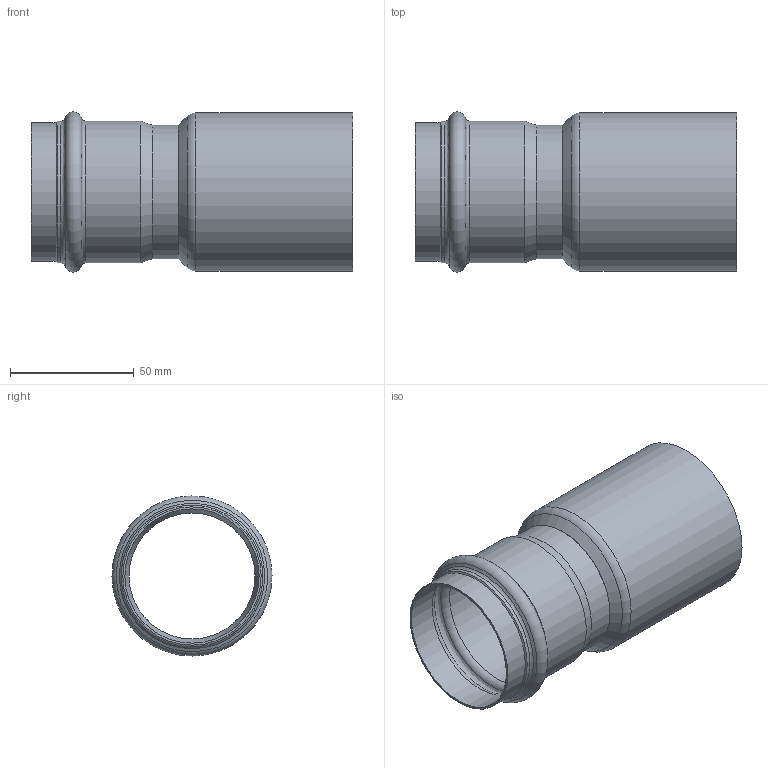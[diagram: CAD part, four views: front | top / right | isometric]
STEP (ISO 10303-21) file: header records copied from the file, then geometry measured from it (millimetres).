
FILE_DESCRIPTION((''),'2;1');
FILE_NAME('G:\Nirosan-Schmiedefeld\Technics\CAD\Bauteile VA\064\692436454(1).stp','2009-05-08T09:51:05',('herberg'),(''),'Autodesk Inventor 2009','Autodesk Inventor 2009','');
FILE_SCHEMA(('AUTOMOTIVE_DESIGN { 1 0 10303 214 1 1 1 1 }'));
Length unit declared in the file: millimetre
Products named in the file (3): 692436454(1); R_692436454(0); 6924354HM(1)
Assembly tree (2 placements, depth 2):
  692436454(1)
    R_692436454(0)
    6924354HM(1)
Bounding box: 130 x 64.78 x 64.78 mm (x, y, z)
Volume: 43245.4 mm3; surface area: 51167.6 mm2
Topology: 2 solids, 2 shells, 29 faces, 54 edges, 29 vertices
Faces by surface type: cylinder 10, cone 7, bspline 4, plane 4, torus 4
Full cylindrical faces by diameter (mm): 51 x2, 54 x1, 54.35 x2, 55.95 x1, 57.35 x2, 60 x1, 64 x1
Entity records: 870 total; most frequent: CARTESIAN_POINT 304, DIRECTION 118, AXIS2_PLACEMENT_3D 59, ORIENTED_EDGE 58, EDGE_LOOP 58, VERTEX_POINT 29, CIRCLE 29, EDGE_CURVE 29
